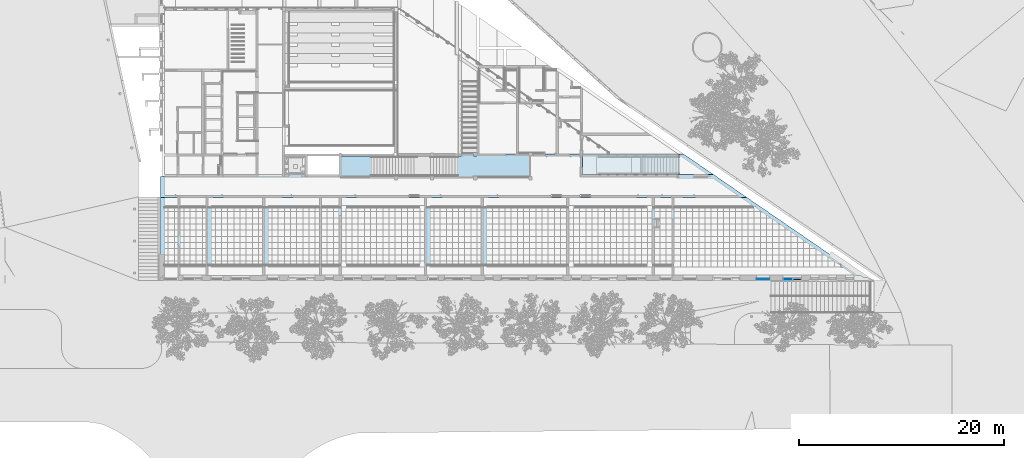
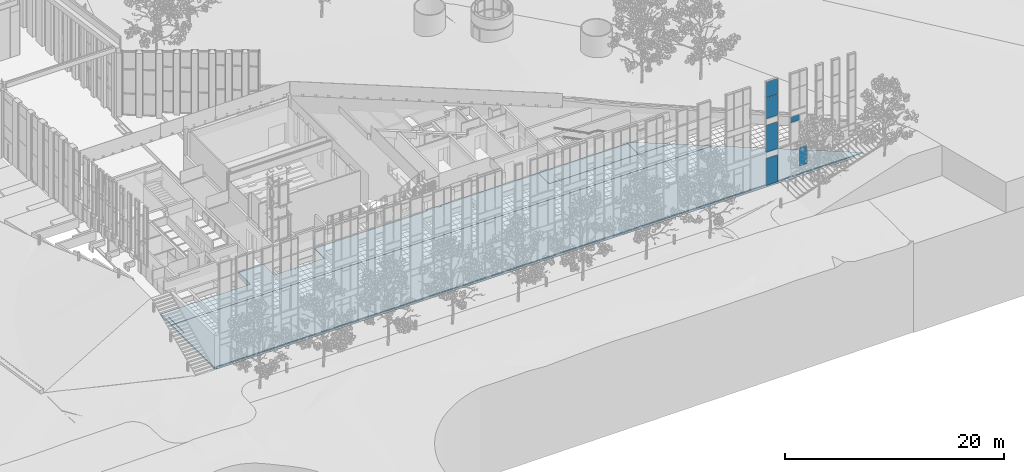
# One storey, part 105 of 246: 6 plates, 4 slabs, 2 elements without a shape of their own.
"""IFC2X3 building model written with IfcOpenShell, lengths in millimetres."""

from ifc_helpers import new_model, entity, si_unit, converted_unit, derived_unit, money_unit, direction, frame, origin_with_axes, place, context, subcontext, project, spatial, faceted_brep, material, material_list, type_object, element, aggregate, save


model = new_model("IFC2X3")

# Units and contexts
model_context = context("Model", 3, precision=0.01, world=origin_with_axes(), true_north=direction((0.0, 1.0)))
body_context = subcontext(model_context, "Body", "Model", "MODEL_VIEW")
ifc_project = project(units=[si_unit("LENGTHUNIT", "METRE", prefix="MILLI"), si_unit("AREAUNIT", "SQUARE_METRE"), si_unit("VOLUMEUNIT", "CUBIC_METRE"), converted_unit("PLANEANGLEUNIT", "DEGREE", entity("IfcPlaneAngleMeasure", 0.0174532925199), si_unit("PLANEANGLEUNIT", "RADIAN"), dimensions=[0, 0, 0, 0, 0, 0, 0]), si_unit("SOLIDANGLEUNIT", "STERADIAN"), money_unit("EUR"), converted_unit("TIMEUNIT", "Year", entity("IfcTimeMeasure", 31556926.0), si_unit("TIMEUNIT", "SECOND"), dimensions=[0, 0, 1, 0, 0, 0, 0]), si_unit("MASSUNIT", "GRAM", prefix="KILO"), si_unit("THERMODYNAMICTEMPERATUREUNIT", "DEGREE_CELSIUS"), si_unit("LUMINOUSINTENSITYUNIT", "LUMEN"), si_unit("ENERGYUNIT", "JOULE", prefix="MEGA"), derived_unit("THERMALCONDUCTANCEUNIT", [(si_unit("POWERUNIT", "WATT"), 1), (si_unit("LENGTHUNIT", "METRE"), -1), (si_unit("THERMODYNAMICTEMPERATUREUNIT", "KELVIN"), -1)]), derived_unit("SPECIFICHEATCAPACITYUNIT", [(si_unit("ENERGYUNIT", "JOULE"), 1), (si_unit("MASSUNIT", "GRAM", prefix="KILO"), -1), (si_unit("THERMODYNAMICTEMPERATUREUNIT", "KELVIN"), -1)]), derived_unit("MASSDENSITYUNIT", [(si_unit("MASSUNIT", "GRAM", prefix="KILO"), 1), (si_unit("VOLUMEUNIT", "CUBIC_METRE"), -1)])], contexts=[model_context])

# Site, building, storey
site_placement = place(None, origin_with_axes())
site = spatial("IfcSite", under=ifc_project, at=site_placement, Name="L.Koidula tn 11b", CompositionType="ELEMENT")
building_placement = place(site_placement, origin_with_axes())
building = spatial("IfcBuilding", under=site, at=building_placement, Name="Rakvere Riigigümnaasium", CompositionType="ELEMENT")
storey_placement = place(building_placement, origin_with_axes())
storey = spatial("IfcBuildingStorey", under=building, at=storey_placement, Name="1.korrus 0,00", CompositionType="ELEMENT", Elevation=0.0)

# Curtain wall, plates
curtain_wall_type = type_object("IfcCurtainWallType", Name="Curtain Wall Type", PredefinedType="NOTDEFINED")
curtain_wall_1_placement = place(storey_placement, frame((93770.0000115, 5111.45334637, -1.61944652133e-05), z_axis=(0.0, 0.0, 1.0), x_axis=(1.0, 0.0, 0.0)))
curtain_wall_1 = element("IfcCurtainWall", 1, at=curtain_wall_1_placement, inside=storey, type_object=curtain_wall_type, Name="KLF-05-1E")
ifc_material_1 = material(Name="Klaaspakett 3x ribikardinatega")
plate_type_1 = type_object("IfcPlateType", Name="Distinct Panel 1206 x 2351 x 65", PredefinedType="CURTAIN_PANEL")
plate_1_placement = place(curtain_wall_1_placement, frame((0.0, 0.0, 8652.5), z_axis=(0.0, 0.0, 1.0), x_axis=(-1.0, 0.0, 0.0)))
plate_1 = element("IfcPlate", 2, at=plate_1_placement, type_object=plate_type_1, material=ifc_material_1, Name="KLF-05-4A-Klaasid", ObjectType="CURTAIN_PANEL", context=body_context, shape_type="Brep", body=[
    faceted_brep([(-603.000068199, -32.5, 1175.50000149), (603.000100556, -32.5, 1175.50000149), (603.000100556, 32.5, 1175.50000149), (-603.000068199, 32.5, 1175.50000149), (-603.000068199, -32.5, -1175.50000149), (603.000100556, -32.5, -1175.50000149), (603.000100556, 32.5, -1175.50000149), (-603.000068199, 32.5, -1175.50000149)], [[[0, 1, 2, 3]], [[0, 4, 5, 1]], [[1, 5, 6, 2]], [[3, 2, 6, 7]], [[4, 0, 3, 7]], [[5, 4, 7, 6]]]),
])
plate_type_2 = type_object("IfcPlateType", Name="Distinct Panel 1206 x 2991 x 65", PredefinedType="CURTAIN_PANEL")
plate_2_placement = place(curtain_wall_1_placement, frame((-3.64792640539e-08, 0.0, 5252.5), z_axis=(0.0, 0.0, 1.0), x_axis=(-1.0, 0.0, 0.0)))
plate_2 = element("IfcPlate", 3, at=plate_2_placement, type_object=plate_type_2, material=ifc_material_1, Name="KLF-05-4A-Klaasid", ObjectType="CURTAIN_PANEL", context=body_context, shape_type="Brep", body=[
    faceted_brep([(-603.000077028, -32.5, 1495.49998659), (603.000102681, -32.5, 1495.49998659), (603.000102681, 32.5, 1495.49998659), (-603.000077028, 32.5, 1495.49998659), (-603.000077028, -32.5, -1495.49998659), (603.000102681, -32.5, -1495.49998659), (603.000102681, 32.5, -1495.49998659), (-603.000077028, 32.5, -1495.49998659)], [[[0, 1, 2, 3]], [[0, 4, 5, 1]], [[1, 5, 6, 2]], [[3, 2, 6, 7]], [[4, 0, 3, 7]], [[5, 4, 7, 6]]]),
])
plate_type_3 = type_object("IfcPlateType", Name="Distinct Panel 1206 x 628 x 65", PredefinedType="CURTAIN_PANEL")
plate_3_placement = place(curtain_wall_1_placement, frame((-3.64792640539e-08, 0.0, 1813.33333333), z_axis=(0.0, 0.0, 1.0), x_axis=(-1.0, 0.0, 0.0)))
plate_3 = element("IfcPlate", 4, at=plate_3_placement, type_object=plate_type_3, material=ifc_material_1, Name="KLF-05-4A-Klaasid", ObjectType="CURTAIN_PANEL", context=body_context, shape_type="Brep", body=[
    faceted_brep([(-603.000092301, -32.5, 1214.66667382), (603.000072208, -32.5, 1214.66667382), (603.000072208, 32.5, 1214.66667382), (-603.000092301, 32.5, 1214.66667382), (-603.000092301, -32.5, 586.66668574), (-603.000092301, -32.5, -1776.33332141), (603.000072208, -32.5, -1776.33332141), (603.000072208, -32.5, 586.66668574), (603.000072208, 32.5, 586.66668574), (603.000072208, 32.5, -1776.33332141), (-603.000092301, 32.5, -1776.33332141), (-603.000092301, 32.5, 586.66668574)], [[[0, 1, 2, 3]], [[0, 4, 5, 6, 7, 1]], [[1, 7, 8, 2]], [[3, 2, 8, 9, 10, 11]], [[4, 0, 3, 11]], [[5, 4, 11, 10]], [[6, 5, 10, 9]], [[7, 6, 9, 8]]]),
])
plate_type_4 = type_object("IfcPlateType", Name="Distinct Panel 1206 x 1701 x 65", PredefinedType="CURTAIN_PANEL")
plate_4_placement = place(curtain_wall_1_placement, frame((-3.57197649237e-05, 0.0, 10715.0000206), z_axis=(0.0, 0.0, 1.0), x_axis=(-1.0, 0.0, 0.0)))
plate_4 = element("IfcPlate", 5, at=plate_4_placement, type_object=plate_type_4, material=ifc_material_1, Name="KLF-05-0A-Klaasid", ObjectType="CURTAIN_PANEL", context=body_context, shape_type="Brep", body=[
    faceted_brep([(-603.000126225, -32.5, 838.000013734), (603.000184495, -32.5, 838.000013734), (603.000184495, 32.5, 838.000013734), (-603.000126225, 32.5, 838.000013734), (-603.000126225, -32.5, -863.000010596), (603.000054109, -32.5, -863.000010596), (603.000054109, 32.5, -863.000010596), (-603.000126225, 32.5, -863.000010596)], [[[0, 1, 2, 3]], [[0, 4, 5, 1]], [[1, 5, 6, 2]], [[3, 2, 6, 7]], [[4, 0, 3, 7]], [[5, 4, 7, 6]]]),
])
aggregate(curtain_wall_1, [plate_1, plate_2, plate_3, plate_4])

curtain_wall_2_placement = place(storey_placement, frame((96030.936158, 5111.45334637, 394.620798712), z_axis=(0.0, 0.0, 1.0), x_axis=(1.0, 0.0, 0.0)))
curtain_wall_2 = element("IfcCurtainWall", 6, at=curtain_wall_2_placement, inside=storey, type_object=curtain_wall_type, Name="KLF-05-2C")
plate_type_5 = type_object("IfcPlateType", Name="926 x 616 x 54", PredefinedType="CURTAIN_PANEL")
plate_5_placement = place(curtain_wall_2_placement, frame((0.0, 0.0, 6045.37919319), z_axis=(0.0, 0.0, 1.0), x_axis=(-1.0, 0.0, 0.0)))
plate_5 = element("IfcPlate", 7, at=plate_5_placement, type_object=plate_type_5, material=ifc_material_1, Name="KLF-71", ObjectType="CURTAIN_PANEL", context=body_context, shape_type="Brep", body=[
    faceted_brep([(-632.06396756, -27.0, 307.999997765), (293.936038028, -27.0, 307.999997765), (293.936038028, 27.0, 307.999997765), (-632.06396756, 27.0, 307.999997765), (-632.06396756, -27.0, -308.000006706), (293.936038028, -27.0, -308.000006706), (293.936038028, 27.0, -308.000006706), (-632.06396756, 27.0, -308.000006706)], [[[0, 1, 2, 3]], [[0, 4, 5, 1]], [[1, 5, 6, 2]], [[3, 2, 6, 7]], [[4, 0, 3, 7]], [[5, 4, 7, 6]]]),
])
plate_type_6 = type_object("IfcPlateType", Name="776 x 2016 x 54", PredefinedType="CURTAIN_PANEL")
plate_6_placement = place(curtain_wall_2_placement, frame((1137.81398827, 0.0, 1421.37919319), z_axis=(0.0, 0.0, 1.0), x_axis=(-1.0, 0.0, 0.0)))
plate_6 = element("IfcPlate", 8, at=plate_6_placement, type_object=plate_type_6, material=ifc_material_1, Name="KLF-59", ObjectType="CURTAIN_PANEL", context=body_context, shape_type="Brep", body=[
    faceted_brep([(-294.250069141, -27.0, 1211.99998927), (481.75001669, -27.0, 1211.99998927), (481.75001669, 27.0, 1211.99998927), (-294.250069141, 27.0, 1211.99998927), (-294.250069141, -27.0, -803.999989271), (481.75001669, -27.0, -803.999989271), (481.75001669, 27.0, -803.999989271), (-294.250069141, 27.0, -803.999989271)], [[[0, 1, 2, 3]], [[0, 4, 5, 1]], [[1, 5, 6, 2]], [[3, 2, 6, 7]], [[4, 0, 3, 7]], [[5, 4, 7, 6]]]),
])
aggregate(curtain_wall_2, [plate_5, plate_6])

# Slabs
ifc_material_2 = material(Name="Parkett")
ifc_material_3 = material(Name="Betoon element / plaat")
ifc_material_4 = material(Name="Soojustus - EPS")
ifc_material_5 = material(Name="Killustik")
ifc_material_list_1 = material_list([ifc_material_2, ifc_material_3, ifc_material_4, ifc_material_4, ifc_material_5])
slab_type_1 = type_object("IfcSlabType", Name="PP-01 490", PredefinedType="NOTDEFINED")
slab_1_placement = place(storey_placement, frame((44599.9827127, 15100.4785303, 0.0), z_axis=(0.0, 0.0, 1.0), x_axis=(1.0, 0.0, 0.0)))
element("IfcSlab", 9, at=slab_1_placement, inside=storey, type_object=slab_type_1, material=ifc_material_list_1, Name="Põrand pinnasel", PredefinedType="NOTDEFINED", context=body_context, shape_type="Brep", body=[
    faceted_brep([(17090.0382183, 2009.97698926, -10.0), (17090.0382183, 2009.97698926, 0.0), (19790.0382842, 2009.97699227, 0.0), (19790.0382842, 2009.97699227, -10.0), (17090.0382183, 2009.95398384, 0.0), (17090.0382183, 2009.95398384, -10.0), (16790.0382183, 2009.95398384, 0.0), (16790.0382183, 2009.97698893, 0.0), (8100.01728103, 2009.97697924, 0.0), (8100.01728142, 199.999999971, 0.0), (7900.01728098, 199.999999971, 0.0), (4800.01728098, 199.999999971, 0.0), (4800.01728098, -2.87414536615e-08, 0.0), (4600.01728098, -2.87414536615e-08, 0.0), (4600.01728098, 199.999999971, 0.0), (2600.01728103, 199.999999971, 0.0), (2600.01728107, 2209.97699227, 0.0), (0.00367516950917, 2209.97699227, 0.0), (0.0, 0.0, 0.0), (-9099.98266054, 0.015133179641, 0.0), (-9099.98266054, -1820.02415852, 0.0), (-9100.98266054, -1820.02415852, 0.0), (-9100.98266232, -2020.02415852, 0.0), (47066.0075208, -2020.02415852, 0.0), (43829.2424973, 199.999999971, 0.0), (31589.9971668, 199.999999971, 0.0), (31589.9971668, 2209.97699227, 0.0), (21300.0152899, 2209.97699227, 0.0), (21300.0152899, 2009.97699227, 0.0), (21000.0152899, 2009.97699227, 0.0), (21000.0152899, 2209.97699227, 0.0), (19800.0153243, 2209.97699227, 0.0), (19800.0153243, 2009.97699227, 0.0), (19800.0153243, 2009.97699227, -10.0), (19800.0153243, 2209.97699227, -10.0), (21000.0152899, 2209.97699227, -10.0), (21000.0152899, 2009.97699227, -10.0), (21300.0152899, 2009.97699227, -10.0), (21300.0152899, 2209.97699227, -10.0), (31589.9971668, 2209.97699227, -10.0), (31589.9971668, 199.999999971, -10.0), (43829.2424973, 199.999999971, -10.0), (47066.0075208, -2020.02415852, -10.0), (-9100.98266232, -2020.02415852, -10.0), (-9100.98266054, -1820.02415852, -10.0), (-9099.98266054, -1820.02415852, -10.0), (-9099.98266054, 0.015133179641, -10.0), (0.0, 0.0, -10.0), (0.00367516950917, 2209.97699227, -10.0), (2600.01728107, 2209.97699227, -10.0), (2600.01728103, 199.999999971, -10.0), (4600.01728098, 199.999999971, -10.0), (4600.01728098, -2.87414536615e-08, -10.0), (4800.01728098, -2.87414536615e-08, -10.0), (4800.01728098, 199.999999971, -10.0), (7900.01728098, 199.999999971, -10.0), (8100.01728142, 199.999999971, -10.0), (8100.01728103, 2009.97697924, -10.0), (16790.0382183, 2009.97698893, -10.0), (16790.0382183, 2009.95398384, -10.0)], [[[0, 1, 2, 3]], [[4, 1, 0, 5]], [[6, 7, 8, 9, 10, 11, 12, 13, 14, 15, 16, 17, 18, 19, 20, 21, 22, 23, 24, 25, 26, 27, 28, 29, 30, 31, 32, 2, 1, 4]], [[3, 2, 32, 33]], [[5, 0, 3, 33, 34, 35, 36, 37, 38, 39, 40, 41, 42, 43, 44, 45, 46, 47, 48, 49, 50, 51, 52, 53, 54, 55, 56, 57, 58, 59]], [[6, 4, 5, 59]], [[58, 7, 6, 59]], [[7, 58, 57, 8]], [[56, 9, 8, 57]], [[55, 10, 9, 56]], [[11, 10, 55, 54]], [[53, 12, 11, 54]], [[52, 13, 12, 53]], [[52, 51, 14, 13]], [[15, 14, 51, 50]], [[15, 50, 49, 16]], [[16, 49, 48, 17]], [[17, 48, 47, 18]], [[47, 46, 19, 18]], [[45, 20, 19, 46]], [[44, 21, 20, 45]], [[22, 21, 44, 43]], [[43, 42, 23, 22]], [[24, 23, 42, 41]], [[25, 24, 41, 40]], [[25, 40, 39, 26]], [[38, 27, 26, 39]], [[28, 27, 38, 37]], [[29, 28, 37, 36]], [[35, 30, 29, 36]], [[30, 35, 34, 31]], [[33, 32, 31, 34]]]),
    faceted_brep([(17090.0382183, 2009.97697924, -90.0), (17090.0382183, 2009.97697924, -10.0), (19790.0382842, 2009.97697924, -10.0), (19790.0382842, 2009.97697924, -90.0), (17090.0382183, 2009.95398384, -10.0), (17090.0382183, 2009.95398384, -90.0), (16790.0382183, 2009.95398384, -10.0), (16790.0382183, 2009.97697924, -10.0), (7900.01728098, 2009.97697924, -10.0), (7900.01728098, 199.999999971, -10.0), (2600.01728103, 199.999999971, -10.0), (2600.01728107, 2209.97699227, -10.0), (0.00367516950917, 2209.97699227, -10.0), (0.0, 0.0, -10.0), (-9479.9871784, 0.015765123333, -10.0), (-9479.98216408, -2020.02415852, -10.0), (47596.3715909, -2020.02415852, -10.0), (44359.6065724, 199.999999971, -10.0), (31589.9971668, 199.999999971, -10.0), (31589.9971668, 2209.97699227, -10.0), (21300.0152899, 2209.97699227, -10.0), (21300.0152899, 2009.97699227, -10.0), (21000.0152899, 2009.97699227, -10.0), (21000.0152899, 2209.97699227, -10.0), (19790.0382842, 2209.97699227, -10.0), (19790.0382842, 2209.97699227, -90.0), (21000.0152899, 2209.97699227, -90.0), (21000.0152899, 2009.97699227, -90.0), (21300.0152899, 2009.97699227, -90.0), (21300.0152899, 2209.97699227, -90.0), (31589.9971668, 2209.97699227, -90.0), (31589.9971668, 199.999999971, -90.0), (44359.6065724, 199.999999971, -90.0), (47596.3715909, -2020.02415852, -90.0), (-9479.98216408, -2020.02415852, -90.0), (-9479.9871784, 0.015765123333, -90.0), (0.0, 0.0, -90.0), (0.00367516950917, 2209.97699227, -90.0), (2600.01728107, 2209.97699227, -90.0), (2600.01728103, 199.999999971, -90.0), (7900.01728098, 199.999999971, -90.0), (7900.01728098, 2009.97697924, -90.0), (16790.0382183, 2009.97697924, -90.0), (16790.0382183, 2009.95398384, -90.0)], [[[0, 1, 2, 3]], [[4, 1, 0, 5]], [[6, 7, 8, 9, 10, 11, 12, 13, 14, 15, 16, 17, 18, 19, 20, 21, 22, 23, 24, 2, 1, 4]], [[24, 25, 3, 2]], [[5, 0, 3, 25, 26, 27, 28, 29, 30, 31, 32, 33, 34, 35, 36, 37, 38, 39, 40, 41, 42, 43]], [[6, 4, 5, 43]], [[42, 7, 6, 43]], [[7, 42, 41, 8]], [[8, 41, 40, 9]], [[9, 40, 39, 10]], [[10, 39, 38, 11]], [[11, 38, 37, 12]], [[12, 37, 36, 13]], [[13, 36, 35, 14]], [[14, 35, 34, 15]], [[15, 34, 33, 16]], [[16, 33, 32, 17]], [[17, 32, 31, 18]], [[18, 31, 30, 19]], [[29, 20, 19, 30]], [[21, 20, 29, 28]], [[22, 21, 28, 27]], [[26, 23, 22, 27]], [[23, 26, 25, 24]]]),
    faceted_brep([(17090.0382183, 2009.97697924, -100.0), (17090.0382183, 2009.97697924, -90.0), (19790.0382842, 2009.97697924, -90.0), (19790.0382842, 2009.97697924, -100.0), (17090.0382183, 2009.95398384, -90.0), (17090.0382183, 2009.95398384, -100.0), (16790.0382183, 2009.95398384, -90.0), (16790.0382183, 2009.97697924, -90.0), (13280.0521692, 2009.97697924, -90.0), (13280.0521692, 1909.97699227, -90.0), (8200.01728098, 1909.97699227, -90.0), (8200.01728098, 199.999999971, -90.0), (7900.01728098, 199.999999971, -90.0), (4800.01728098, 199.999999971, -90.0), (4800.01728098, -2.87414536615e-08, -90.0), (4600.01728098, -2.87414536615e-08, -90.0), (4600.01728098, 199.999999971, -90.0), (2600.01728103, 199.999999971, -90.0), (2600.01728107, 2009.97698203, -90.0), (2300.01868041, 2009.97698203, -90.0), (2300.01868041, 2209.97698203, -90.0), (0.00367516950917, 2209.97699227, -90.0), (0.0, 0.0, -90.0), (-9099.98266054, 0.015133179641, -90.0), (-9099.98266054, -1820.02415852, -90.0), (-9100.98266054, -1820.02415852, -90.0), (-9100.98266232, -2020.02415852, -90.0), (47066.0075208, -2020.02415852, -90.0), (43829.2424973, 199.999999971, -90.0), (31589.9971668, 199.999999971, -90.0), (31589.9971668, 2209.97699227, -90.0), (21300.0152899, 2209.97699227, -90.0), (21300.0152899, 2009.97699227, -90.0), (21000.0152899, 2009.97699227, -90.0), (21000.0152899, 2209.97699227, -90.0), (19790.0382842, 2209.97699227, -90.0), (19790.0382842, 2209.97699227, -100.0), (21000.0152899, 2209.97699227, -100.0), (21000.0152899, 2009.97699227, -100.0), (21300.0152899, 2009.97699227, -100.0), (21300.0152899, 2209.97699227, -100.0), (21600.0153602, 2209.97699227, -100.0), (21600.0153602, 1909.97699227, -100.0), (13280.0521692, 1909.97699227, -100.0), (13280.0521692, 2009.97697924, -100.0), (16790.0382183, 2009.97697924, -100.0), (16790.0382183, 2009.95398384, -100.0), (21600.0153602, 1909.97699227, -190.0), (8200.01728098, 1909.97699227, -190.0), (8200.01728098, -100.00000002, -190.0), (8200.01728098, -100.000000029, -100.0), (8200.01728098, 199.999999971, -100.0), (7900.01728098, 199.999999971, -100.0), (4800.01728098, 199.999999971, -100.0), (4800.01728098, -2.87414536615e-08, -100.0), (4600.01728098, -2.87414536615e-08, -100.0), (4600.01728098, 199.999999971, -100.0), (2600.01728107, 199.999999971, -100.0), (2600.01728107, 199.999999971, -170.0), (2600.01728107, 2009.97698203, -170.0), (2300.01868041, 2009.97698203, -170.0), (2300.01728107, 199.999999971, -170.0), (2300.01728107, -100.000000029, -170.0), (2300.01728107, -100.000000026, -190.0), (2300.01868041, 2209.97698203, -190.0), (0.00367516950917, 2209.97699227, -190.0), (0.0, 0.0, -190.0), (-9099.98266054, 0.015133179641, -190.0), (-9099.98266054, -1820.02415852, -190.0), (-9100.98266054, -1820.02415852, -190.0), (-9100.98266232, -2020.02415852, -190.0), (47066.0075208, -2020.02415852, -190.0), (43829.2424973, 199.999999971, -190.0), (31589.9971668, 199.999999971, -190.0), (31589.9971668, 2209.97699227, -190.0), (21600.0153602, 2209.97699227, -190.0), (2600.01728107, -100.000000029, -170.0), (2600.01728107, -100.000000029, -100.0), (7900.01728098, -100.000000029, -100.0)], [[[0, 1, 2, 3]], [[4, 1, 0, 5]], [[6, 7, 8, 9, 10, 11, 12, 13, 14, 15, 16, 17, 18, 19, 20, 21, 22, 23, 24, 25, 26, 27, 28, 29, 30, 31, 32, 33, 34, 35, 2, 1, 4]], [[2, 35, 36, 3]], [[5, 0, 3, 36, 37, 38, 39, 40, 41, 42, 43, 44, 45, 46]], [[6, 4, 5, 46]], [[45, 7, 6, 46]], [[7, 45, 44, 8]], [[44, 43, 9, 8]], [[43, 42, 47, 48, 10, 9]], [[48, 49, 50, 51, 11, 10]], [[51, 52, 12, 11]], [[12, 52, 53, 13]], [[13, 53, 54, 14]], [[15, 14, 54, 55]], [[16, 15, 55, 56]], [[17, 16, 56, 57]], [[58, 59, 18, 17, 57]], [[18, 59, 60, 19]], [[20, 19, 60, 61, 62, 63, 64]], [[64, 65, 21, 20]], [[21, 65, 66, 22]], [[22, 66, 67, 23]], [[67, 68, 24, 23]], [[68, 69, 25, 24]], [[70, 26, 25, 69]], [[70, 71, 27, 26]], [[28, 27, 71, 72]], [[29, 28, 72, 73]], [[29, 73, 74, 30]], [[40, 31, 30, 74, 75, 41]], [[32, 31, 40, 39]], [[33, 32, 39, 38]], [[37, 34, 33, 38]], [[34, 37, 36, 35]], [[47, 42, 41, 75]], [[72, 71, 70, 69, 68, 67, 66, 65, 64, 63, 49, 48, 47, 75, 74, 73]], [[62, 76, 77, 78, 50, 49, 63]], [[55, 54, 53, 52, 51, 50, 78, 77, 57, 56]], [[60, 59, 58, 76, 62, 61]], [[77, 76, 58, 57]]]),
    faceted_brep([(-9299.98266054, -1820.02415852, -90.0), (-9299.98266054, 0.015465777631, -90.0), (-9479.9871784, 0.015765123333, -90.0), (-9479.98216408, -2020.02415852, -90.0), (-9300.98266054, -2020.02415852, -90.0), (-9300.98266054, -1820.02415852, -90.0), (-9299.98266054, 0.015465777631, -190.0), (-9299.98266054, -1820.02415852, -190.0), (-9479.9871784, 0.015765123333, -190.0), (-9479.98216408, -2020.02415852, -190.0), (-9300.98266054, -2020.02415852, -190.0), (-9300.98266054, -1820.02415852, -190.0)], [[[0, 1, 2, 3, 4, 5]], [[6, 1, 0, 7]], [[1, 6, 8, 2]], [[9, 3, 2, 8]], [[9, 10, 4, 3]], [[11, 5, 4, 10]], [[7, 0, 5, 11]], [[6, 7, 11, 10, 9, 8]]]),
    faceted_brep([(-9100.98266232, -2020.02415852, -290.0), (47066.0075208, -2020.02415852, -290.0), (47066.0075208, -2020.02415852, -190.0), (-9100.98266232, -2020.02415852, -190.0), (43829.2424973, 199.999999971, -290.0), (-9100.98266054, -1820.02415852, -290.0), (-9099.98266054, -1820.02415852, -290.0), (-9099.98266054, 0.015133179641, -290.0), (0.0, 0.0, -290.0), (0.00367516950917, 2209.97699227, -290.0), (2100.01728107, 2209.97698203, -290.0), (2100.01728107, -300.000000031, -290.0), (8400.01728098, -300.000000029, -290.0), (8400.01728098, 1709.97699227, -290.0), (21800.0153602, 1709.97699227, -290.0), (21800.0153602, 1909.97699227, -290.0), (21800.0153602, 2209.97699227, -290.0), (31589.9971668, 2209.97699227, -290.0), (31589.9971668, 199.999999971, -290.0), (43829.2424973, 199.999999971, -190.0), (31589.9971668, 199.999999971, -190.0), (31589.9971668, 2209.97699227, -190.0), (21800.0153602, 2209.97699227, -190.0), (21800.0153602, 1909.97699227, -190.0), (21800.0153602, 1709.97699227, -190.0), (8400.01728098, 1709.97699227, -190.0), (8400.01728098, -300.000000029, -190.0), (2100.01728107, -300.000000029, -190.0), (2100.01728107, 2209.97698203, -190.0), (0.00367516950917, 2209.97699227, -190.0), (0.0, 0.0, -190.0), (-9099.98266054, 0.015133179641, -190.0), (-9099.98266054, -1820.02415852, -190.0), (-9100.98266054, -1820.02415852, -190.0)], [[[0, 1, 2, 3]], [[4, 1, 0, 5, 6, 7, 8, 9, 10, 11, 12, 13, 14, 15, 16, 17, 18]], [[19, 2, 1, 4]], [[3, 2, 19, 20, 21, 22, 23, 24, 25, 26, 27, 28, 29, 30, 31, 32, 33]], [[0, 3, 33, 5]], [[6, 5, 33, 32]], [[7, 6, 32, 31]], [[30, 8, 7, 31]], [[8, 30, 29, 9]], [[9, 29, 28, 10]], [[10, 28, 27, 11]], [[26, 12, 11, 27]], [[26, 25, 13, 12]], [[14, 13, 25, 24]], [[15, 14, 24, 23]], [[22, 16, 15, 23]], [[22, 21, 17, 16]], [[17, 21, 20, 18]], [[18, 20, 19, 4]]]),
    faceted_brep([(-9100.98266232, -2020.02415852, -490.0), (47066.0075208, -2020.02415852, -490.0), (47066.0075208, -2020.02415852, -290.0), (-9100.98266232, -2020.02415852, -290.0), (43829.2424973, 199.999999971, -490.0), (-9100.98266054, -1820.02415852, -490.0), (-9099.98266054, -1820.02415852, -490.0), (-9099.98266054, 0.015133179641, -490.0), (0.0, 0.0, -490.0), (0.00367516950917, 2209.97699227, -490.0), (2100.01728107, 2209.97698203, -490.0), (2100.01728107, -300.000000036, -490.0), (8400.01728098, -300.000000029, -490.0), (8400.01728098, 1709.97699227, -490.0), (21800.0153602, 1709.97699227, -490.0), (21800.0153602, 1909.97699227, -490.0), (21800.0153602, 2209.97699227, -490.0), (31589.9971668, 2209.97699227, -490.0), (31589.9971668, 199.999999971, -490.0), (43829.2424973, 199.999999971, -290.0), (31589.9971668, 199.999999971, -290.0), (31589.9971668, 2209.97699227, -290.0), (21800.0153602, 2209.97699227, -290.0), (21800.0153602, 1909.97699227, -290.0), (21800.0153602, 1709.97699227, -290.0), (8400.01728098, 1709.97699227, -290.0), (8400.01728098, -300.000000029, -290.0), (2100.01728107, -300.000000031, -290.0), (2100.01728107, 2209.97698203, -290.0), (0.00367516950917, 2209.97699227, -290.0), (0.0, 0.0, -290.0), (-9099.98266054, 0.015133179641, -290.0), (-9099.98266054, -1820.02415852, -290.0), (-9100.98266054, -1820.02415852, -290.0)], [[[0, 1, 2, 3]], [[4, 1, 0, 5, 6, 7, 8, 9, 10, 11, 12, 13, 14, 15, 16, 17, 18]], [[19, 2, 1, 4]], [[3, 2, 19, 20, 21, 22, 23, 24, 25, 26, 27, 28, 29, 30, 31, 32, 33]], [[0, 3, 33, 5]], [[6, 5, 33, 32]], [[7, 6, 32, 31]], [[30, 8, 7, 31]], [[9, 8, 30, 29]], [[9, 29, 28, 10]], [[10, 28, 27, 11]], [[26, 12, 11, 27]], [[26, 25, 13, 12]], [[14, 13, 25, 24]], [[15, 14, 24, 23]], [[22, 16, 15, 23]], [[22, 21, 17, 16]], [[18, 17, 21, 20]], [[18, 20, 19, 4]]]),
])
ifc_material_6 = material(Name="PVC-klassid")
ifc_material_7 = material(Name="Betoon - pealevalu")
ifc_material_list_2 = material_list([ifc_material_6, ifc_material_7, ifc_material_3, ifc_material_4, ifc_material_4, ifc_material_5])
slab_type_2 = type_object("IfcSlabType", Name="PP-01-1 490", PredefinedType="NOTDEFINED")
slab_2_placement = place(storey_placement, frame((35120.0005486, 13080.4543717, 0.0), z_axis=(0.0, 0.0, 1.0), x_axis=(1.0, 0.0, 0.0)))
element("IfcSlab", 10, at=slab_2_placement, inside=storey, type_object=slab_type_2, material=ifc_material_list_2, Name="Põrand pinnasel", PredefinedType="NOTDEFINED", context=body_context, shape_type="Brep", body=[
    faceted_brep([(67597.5248706, -7579.99883287, -5.0), (56545.9896849, 0.0, -5.0), (56545.9896849, 0.0, 0.0), (67597.5248706, -7579.99883287, -1.61944653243e-05), (68127.8889236, -7579.99883287, -5.0), (68180.7194293, -7616.23408576, -5.0), (68180.7194293, -7779.99883287, -5.0), (178.99950248, -7779.99883287, -5.0), (178.999502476, -7579.99883287, -5.0), (378.999501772, -7579.99883287, -5.0), (378.999501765, 0.0, -5.0), (378.999501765, 0.0, 0.0), (378.999501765, -7579.99883287, -1.61944653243e-05), (178.999502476, -7579.99883287, -1.61944653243e-05), (178.999502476, -7779.99883287, -1.61944653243e-05), (68180.7194293, -7779.99883287, -1.61944653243e-05), (68180.7194293, -7616.23408576, -1.61944653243e-05), (68127.8889236, -7579.99883287, -1.61944653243e-05)], [[[0, 1, 2, 3]], [[1, 0, 4, 5, 6, 7, 8, 9, 10]], [[2, 1, 10, 11]], [[2, 11, 12, 13, 14, 15, 16, 17, 3]], [[3, 17, 4, 0]], [[16, 5, 4, 17]], [[5, 16, 15, 6]], [[14, 7, 6, 15]], [[14, 13, 8, 7]], [[8, 13, 12, 9]], [[12, 11, 10, 9]]]),
    faceted_brep([(67597.5248706, -7579.99883287, -10.0), (56545.9896849, 0.0, -10.0), (56545.9896849, 0.0, -5.0), (67597.5248706, -7579.99883287, -5.0), (68127.8889236, -7579.99883287, -10.0), (68180.7194293, -7616.23408576, -10.0), (68180.7194293, -7779.99883287, -10.0), (0.0193121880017, -7779.99883287, -10.0), (0.0, 0.0, -10.0), (178.999503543, 0.0, -10.0), (178.999503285, -7579.99883287, -10.0), (378.99950178, -7579.99883287, -10.0), (378.999501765, 0.0, -10.0), (378.999501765, 0.0, -5.0), (378.999501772, -7579.99883287, -5.0), (178.999503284, -7579.99883287, -5.0), (178.999503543, 0.0, -5.0), (0.0, 0.0, -5.0), (0.0193121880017, -7779.99883287, -5.0), (68180.7194293, -7779.99883287, -5.0), (68180.7194293, -7616.23408576, -5.0), (68127.8889236, -7579.99883287, -5.0)], [[[0, 1, 2, 3]], [[1, 0, 4, 5, 6, 7, 8, 9, 10, 11, 12]], [[2, 1, 12, 13]], [[2, 13, 14, 15, 16, 17, 18, 19, 20, 21, 3]], [[3, 21, 4, 0]], [[20, 5, 4, 21]], [[5, 20, 19, 6]], [[6, 19, 18, 7]], [[8, 7, 18, 17]], [[16, 9, 8, 17]], [[9, 16, 15, 10]], [[15, 14, 11, 10]], [[14, 13, 12, 11]]]),
    faceted_brep([(0.0, 0.0, -90.0), (0.0193121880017, -7779.99883287, -90.0), (0.0193121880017, -7779.99883287, -10.0), (0.0, 0.0, -10.0), (57076.353755, 0.0, -90.0), (68419.4862024, -7779.99883287, -90.0), (68419.4862024, -7779.99883287, -10.0), (57076.353755, 0.0, -10.0)], [[[0, 1, 2, 3]], [[1, 0, 4, 5]], [[1, 5, 6, 2]], [[7, 3, 2, 6]], [[4, 0, 3, 7]], [[5, 4, 7, 6]]]),
    faceted_brep([(178.999503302, -7579.99883287, -90.0), (178.999503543, 0.0, -90.0), (0.0, 0.0, -90.0), (0.0193121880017, -7779.99883287, -90.0), (178.999503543, -7779.99883287, -90.0), (178.999503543, 0.0, -190.0), (178.999503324, -7579.99883287, -190.0), (0.0, 0.0, -190.0), (0.0193121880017, -7779.99883287, -190.0), (178.999503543, -7779.99883287, -190.0)], [[[0, 1, 2, 3, 4]], [[5, 1, 0, 6]], [[1, 5, 7, 2]], [[7, 8, 3, 2]], [[9, 4, 3, 8]], [[6, 0, 4, 9]], [[5, 6, 9, 8, 7]]]),
    faceted_brep([(67597.5248706, -7579.99883287, -190.0), (56545.9896849, 0.0, -190.0), (56545.9896849, 0.0, -90.0), (67597.5248706, -7579.99883287, -90.0), (378.999502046, -7579.99883287, -190.0), (378.999501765, 0.0, -190.0), (378.999501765, 0.0, -90.0), (378.999501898, -7579.99883287, -90.0)], [[[0, 1, 2, 3]], [[1, 0, 4, 5]], [[2, 1, 5, 6]], [[2, 6, 7, 3]], [[7, 4, 0, 3]], [[7, 6, 5, 4]]]),
    faceted_brep([(67597.5248706, -7579.99883287, -290.0), (56545.9896849, 0.0, -290.0), (56545.9896849, 0.0, -190.0), (67597.5248706, -7579.99883287, -190.0), (378.999502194, -7579.99883287, -290.0), (378.999501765, 0.0, -290.0), (378.999501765, 0.0, -190.0), (378.999502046, -7579.99883287, -190.0)], [[[0, 1, 2, 3]], [[1, 0, 4, 5]], [[2, 1, 5, 6]], [[2, 6, 7, 3]], [[7, 4, 0, 3]], [[7, 6, 5, 4]]]),
    faceted_brep([(67597.5248706, -7579.99883287, -490.0), (56545.9896849, 0.0, -490.0), (56545.9896849, 0.0, -290.0), (67597.5248706, -7579.99883287, -290.0), (378.999502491, -7579.99883287, -490.0), (378.999501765, 0.0, -490.0), (378.999501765, 0.0, -290.0), (378.999502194, -7579.99883287, -290.0)], [[[0, 1, 2, 3]], [[1, 0, 4, 5]], [[2, 1, 5, 6]], [[2, 6, 7, 3]], [[7, 4, 0, 3]], [[7, 6, 5, 4]]]),
])
ifc_material_list_3 = material_list([ifc_material_7, ifc_material_3, ifc_material_4, ifc_material_4, ifc_material_5])
slab_type_3 = type_object("IfcSlabType", Name="PP-01-5 490", PredefinedType="NOTDEFINED")
slab_3_placement = place(storey_placement, frame((85589.9999916, 15300.4785302, 0.0), z_axis=(0.0, 0.0, 1.0), x_axis=(1.0, 0.0, 0.0)))
element("IfcSlab", 11, at=slab_3_placement, inside=storey, type_object=slab_type_3, material=ifc_material_list_3, Name="Põrand pinnasel", PredefinedType="NOTDEFINED", context=body_context, shape_type="Brep", body=[
    faceted_brep([(2839.22521837, 0.0, -10.0), (2839.22521837, 0.0, 0.0), (0.0, 0.0, 0.0), (0.0, 0.0, -10.0), (0.0, 1947.36047935, -10.0), (0.0, 1947.36047935, 0.0)], [[[0, 1, 2, 3]], [[1, 0, 4, 5]], [[1, 5, 2]], [[5, 4, 3, 2]], [[0, 3, 4]]]),
    faceted_brep([(0.0, 0.0, -90.0), (3369.58929346, 0.0, -90.0), (3369.58929346, 0.0, -10.0), (0.0, 0.0, -10.0), (0.0, 2009.97698195, -90.0), (439.070014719, 2009.97698147, -90.0), (439.070014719, 2009.97698147, -10.0), (0.0, 2009.97698195, -10.0)], [[[0, 1, 2, 3]], [[1, 0, 4, 5]], [[1, 5, 6, 2]], [[7, 3, 2, 6]], [[4, 0, 3, 7]], [[5, 4, 7, 6]]]),
    faceted_brep([(2839.22521837, 0.0, -190.0), (2839.22521837, 0.0, -90.0), (0.0, 0.0, -90.0), (0.0, 0.0, -190.0), (0.0, 1947.36047935, -190.0), (0.0, 1947.36047935, -90.0)], [[[0, 1, 2, 3]], [[1, 0, 4, 5]], [[1, 5, 2]], [[5, 4, 3, 2]], [[0, 3, 4]]]),
    faceted_brep([(2839.22521837, 0.0, -290.0), (2839.22521837, 0.0, -190.0), (0.0, 0.0, -190.0), (0.0, 0.0, -290.0), (0.0, 1947.36047935, -290.0), (0.0, 1947.36047935, -190.0)], [[[0, 1, 2, 3]], [[1, 0, 4, 5]], [[1, 5, 2]], [[5, 4, 3, 2]], [[0, 3, 4]]]),
    faceted_brep([(2839.22521837, 0.0, -490.0), (2839.22521837, 0.0, -290.0), (0.0, 0.0, -290.0), (0.0, 0.0, -490.0), (0.0, 1947.36047935, -490.0), (0.0, 1947.36047935, -290.0)], [[[0, 1, 2, 3]], [[1, 0, 4, 5]], [[1, 5, 2]], [[5, 4, 3, 2]], [[0, 3, 4]]]),
])
ifc_material_8 = material(Name="Keraamiline plaat")
ifc_material_list_4 = material_list([ifc_material_8, ifc_material_3, ifc_material_4, ifc_material_4, ifc_material_5])
slab_type_4 = type_object("IfcSlabType", Name="PP-01-3 490", PredefinedType="NOTDEFINED")
slab_4_placement = place(storey_placement, frame((76189.9798795, 17310.4555225, 0.0), z_axis=(0.0, 0.0, 1.0), x_axis=(1.0, 0.0, 0.0)))
element("IfcSlab", 12, at=slab_4_placement, inside=storey, type_object=slab_type_4, material=ifc_material_list_4, Name="Põrand pinnasel", PredefinedType="NOTDEFINED", context=body_context, shape_type="Brep", body=[
    faceted_brep([(9400.02011208, -62.616512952, -10.0), (9400.02011208, -62.616512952, 0.0), (9400.02011208, -2009.9769923, 0.0), (9400.02011208, -2009.9769923, -10.0), (9308.72605086, -1.02445518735e-05, 0.0), (9308.72605086, -1.02445518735e-05, -10.0), (0.0, 0.0, 0.0), (0.0, -2009.9769923, 0.0), (0.0, -2009.9769923, -10.0), (0.0, 0.0, -10.0)], [[[0, 1, 2, 3]], [[4, 1, 0, 5]], [[1, 4, 6, 7, 2]], [[8, 3, 2, 7]], [[5, 0, 3, 8, 9]], [[4, 5, 9, 6]], [[9, 8, 7, 6]]]),
    faceted_brep([(8.23476398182e-06, -200.000010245, -90.0), (8.23476398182e-06, -200.000010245, -10.0), (0.0, 0.0, -10.0), (0.0, 0.0, -90.0), (0.0, -2009.9769923, -90.0), (0.0, -2009.9769923, -10.0), (9400.02011208, -2009.9769923, -10.0), (9400.02011208, -1.03450226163e-05, -10.0), (9400.02011208, -1.03450226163e-05, -90.0), (9400.02011208, -2009.9769923, -90.0)], [[[0, 1, 2, 3]], [[4, 5, 1, 0]], [[2, 1, 5, 6, 7]], [[3, 2, 7, 8]], [[3, 8, 9, 4, 0]], [[9, 6, 5, 4]], [[8, 7, 6, 9]]]),
    faceted_brep([(9400.02011208, -62.616512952, -190.0), (9400.02011208, -62.616512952, -90.0), (9400.02011208, -2009.9769923, -90.0), (9400.02011208, -2009.9769923, -190.0), (9308.72605086, -1.02445518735e-05, -90.0), (9308.72605086, -1.02445518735e-05, -190.0), (0.0, 0.0, -90.0), (0.0, -2009.9769923, -90.0), (0.0, -2009.9769923, -190.0), (0.0, 0.0, -190.0)], [[[0, 1, 2, 3]], [[4, 1, 0, 5]], [[1, 4, 6, 7, 2]], [[8, 3, 2, 7]], [[5, 0, 3, 8, 9]], [[4, 5, 9, 6]], [[9, 8, 7, 6]]]),
    faceted_brep([(9400.02011208, -62.616512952, -290.0), (9400.02011208, -62.616512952, -190.0), (9400.02011208, -2009.9769923, -190.0), (9400.02011208, -2009.9769923, -290.0), (9308.72605086, -1.02445518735e-05, -190.0), (9308.72605086, -1.02445518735e-05, -290.0), (0.0, 0.0, -190.0), (0.0, -2009.9769923, -190.0), (0.0, -2009.9769923, -290.0), (0.0, 0.0, -290.0)], [[[0, 1, 2, 3]], [[4, 1, 0, 5]], [[1, 4, 6, 7, 2]], [[8, 3, 2, 7]], [[5, 0, 3, 8, 9]], [[4, 5, 9, 6]], [[9, 8, 7, 6]]]),
    faceted_brep([(9400.02011208, -62.616512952, -490.0), (9400.02011208, -62.616512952, -290.0), (9400.02011208, -2009.9769923, -290.0), (9400.02011208, -2009.9769923, -490.0), (9308.72605086, -1.02445518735e-05, -290.0), (9308.72605086, -1.02445518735e-05, -490.0), (0.0, 0.0, -290.0), (0.0, -2009.9769923, -290.0), (0.0, -2009.9769923, -490.0), (0.0, 0.0, -490.0)], [[[0, 1, 2, 3]], [[4, 1, 0, 5]], [[1, 4, 6, 7, 2]], [[7, 8, 3, 2]], [[5, 0, 3, 8, 9]], [[4, 5, 9, 6]], [[6, 9, 8, 7]]]),
])

save(model, "model.ifc")
